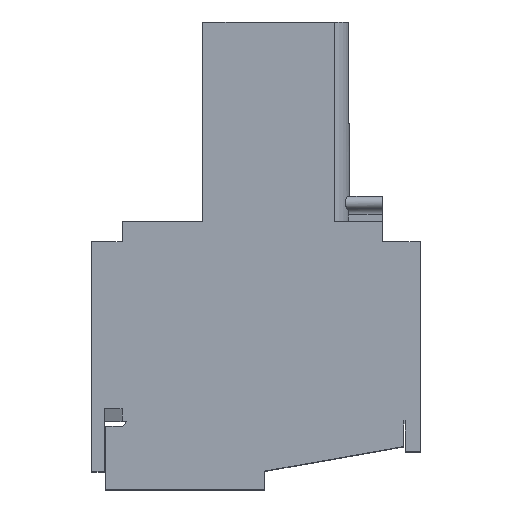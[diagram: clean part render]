
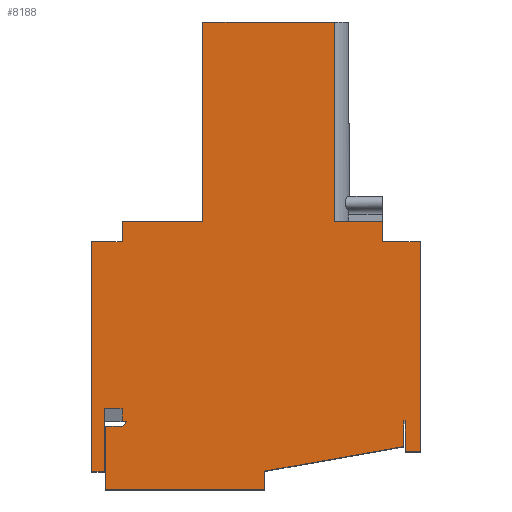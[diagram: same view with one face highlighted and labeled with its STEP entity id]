
A CAD part, top view. The second image highlights one B-rep face of the part: STEP entity #8188.
In plain terms, the highlighted planar face has unit normal (0, 0, 1).
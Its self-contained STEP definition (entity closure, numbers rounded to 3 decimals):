
#229=DIRECTION('',(0.643,0.766,0.));
#230=VECTOR('',#229,0.261);
#231=CARTESIAN_POINT('',(1.221,2.5,-13.651));
#232=LINE('',#231,#230);
#233=DIRECTION('',(1.,0.,0.));
#234=VECTOR('',#233,0.189);
#235=CARTESIAN_POINT('',(1.2,2.7,-13.651));
#236=LINE('',#235,#234);
#237=DIRECTION('',(0.,-1.,0.));
#238=VECTOR('',#237,0.5);
#239=CARTESIAN_POINT('',(1.2,3.2,-13.651));
#240=LINE('',#239,#238);
#241=DIRECTION('',(-1.,0.,0.));
#242=VECTOR('',#241,0.7);
#243=CARTESIAN_POINT('',(1.2,3.2,-13.651));
#244=LINE('',#243,#242);
#245=DIRECTION('',(0.,-1.,0.));
#246=VECTOR('',#245,2.5);
#247=CARTESIAN_POINT('',(0.5,3.2,-13.651));
#248=LINE('',#247,#246);
#249=DIRECTION('',(-1.,0.,0.));
#250=VECTOR('',#249,0.5);
#251=CARTESIAN_POINT('',(0.5,0.7,-13.651));
#252=LINE('',#251,#250);
#253=DIRECTION('',(0.,1.,0.));
#254=VECTOR('',#253,9.1);
#255=CARTESIAN_POINT('',(0.,0.7,-13.651));
#256=LINE('',#255,#254);
#257=DIRECTION('',(1.,0.,0.));
#258=VECTOR('',#257,1.2);
#259=CARTESIAN_POINT('',(0.,9.8,-13.651));
#260=LINE('',#259,#258);
#261=DIRECTION('',(0.,1.,0.));
#262=VECTOR('',#261,0.8);
#263=CARTESIAN_POINT('',(1.2,9.8,-13.651));
#264=LINE('',#263,#262);
#265=DIRECTION('',(1.,0.,0.));
#266=VECTOR('',#265,3.2);
#267=CARTESIAN_POINT('',(1.2,10.6,-13.651));
#268=LINE('',#267,#266);
#269=DIRECTION('',(0.,1.,0.));
#270=VECTOR('',#269,7.9);
#271=CARTESIAN_POINT('',(4.4,10.6,-13.651));
#272=LINE('',#271,#270);
#273=DIRECTION('',(1.,0.,0.));
#274=VECTOR('',#273,5.2);
#275=CARTESIAN_POINT('',(4.4,18.5,-13.651));
#276=LINE('',#275,#274);
#277=DIRECTION('',(1.,0.,0.));
#278=VECTOR('',#277,1.9);
#279=CARTESIAN_POINT('',(9.6,10.6,-13.651));
#280=LINE('',#279,#278);
#281=DIRECTION('',(0.,-1.,0.));
#282=VECTOR('',#281,0.8);
#283=CARTESIAN_POINT('',(11.5,10.6,-13.651));
#284=LINE('',#283,#282);
#285=DIRECTION('',(1.,0.,0.));
#286=VECTOR('',#285,1.5);
#287=CARTESIAN_POINT('',(11.5,9.8,-13.651));
#288=LINE('',#287,#286);
#289=DIRECTION('',(0.,-1.,0.));
#290=VECTOR('',#289,8.3);
#291=CARTESIAN_POINT('',(13.,9.8,-13.651));
#292=LINE('',#291,#290);
#293=DIRECTION('',(-1.,0.,0.));
#294=VECTOR('',#293,0.6);
#295=CARTESIAN_POINT('',(13.,1.5,-13.651));
#296=LINE('',#295,#294);
#297=DIRECTION('',(0.,1.,0.));
#298=VECTOR('',#297,1.224);
#299=CARTESIAN_POINT('',(12.4,1.5,-13.651));
#300=LINE('',#299,#298);
#301=DIRECTION('',(0.985,0.174,0.));
#302=VECTOR('',#301,0.051);
#303=CARTESIAN_POINT('',(12.35,2.715,-13.651));
#304=LINE('',#303,#302);
#305=DIRECTION('',(0.,-1.,0.));
#306=VECTOR('',#305,1.015);
#307=CARTESIAN_POINT('',(12.35,2.715,-13.651));
#308=LINE('',#307,#306);
#309=DIRECTION('',(-0.985,-0.174,0.));
#310=VECTOR('',#309,5.585);
#311=CARTESIAN_POINT('',(12.35,1.7,-13.651));
#312=LINE('',#311,#310);
#313=DIRECTION('',(0.,-1.,0.));
#314=VECTOR('',#313,0.73);
#315=CARTESIAN_POINT('',(6.85,0.73,-13.651));
#316=LINE('',#315,#314);
#317=DIRECTION('',(-1.,0.,0.));
#318=VECTOR('',#317,6.3);
#319=CARTESIAN_POINT('',(6.85,0.,-13.651));
#320=LINE('',#319,#318);
#321=DIRECTION('',(0.,1.,0.));
#322=VECTOR('',#321,2.5);
#323=CARTESIAN_POINT('',(0.55,0.,-13.651));
#324=LINE('',#323,#322);
#5611=DIRECTION('',(0.,1.,0.));
#5612=VECTOR('',#5611,7.9);
#5613=CARTESIAN_POINT('',(9.6,10.6,-13.651));
#5614=LINE('',#5613,#5612);
#6023=DIRECTION('',(-1.,0.,0.));
#6024=VECTOR('',#6023,0.671);
#6025=CARTESIAN_POINT('',(1.221,2.5,-13.651));
#6026=LINE('',#6025,#6024);
#6289=CARTESIAN_POINT('',(1.221,2.5,-13.651));
#6291=VERTEX_POINT('',#6289);
#6338=CARTESIAN_POINT('',(12.35,1.7,-13.651));
#6339=VERTEX_POINT('',#6338);
#6376=CARTESIAN_POINT('',(6.85,0.73,
-13.651));
#6377=VERTEX_POINT('',#6376);
#6378=CARTESIAN_POINT('',(6.85,0.,-13.651));
#6379=VERTEX_POINT('',#6378);
#6380=CARTESIAN_POINT('',(0.55,0.,-13.651));
#6381=VERTEX_POINT('',#6380);
#6410=CARTESIAN_POINT('',(0.55,2.5,-13.651));
#6411=VERTEX_POINT('',#6410);
#6438=CARTESIAN_POINT('',(0.5,0.7,-13.651));
#6439=VERTEX_POINT('',#6438);
#6440=CARTESIAN_POINT('',(0.5,3.2,-13.651));
#6441=VERTEX_POINT('',#6440);
#6456=CARTESIAN_POINT('',(0.,0.7,-13.651));
#6457=VERTEX_POINT('',#6456);
#6458=CARTESIAN_POINT('',(0.,9.8,-13.651));
#6459=VERTEX_POINT('',#6458);
#6460=CARTESIAN_POINT('',(1.2,9.8,-13.651));
#6461=VERTEX_POINT('',#6460);
#6462=CARTESIAN_POINT('',(1.2,10.6,-13.651));
#6463=VERTEX_POINT('',#6462);
#6464=CARTESIAN_POINT('',(4.4,10.6,-13.651));
#6465=VERTEX_POINT('',#6464);
#6466=CARTESIAN_POINT('',(4.4,18.5,-13.651));
#6467=VERTEX_POINT('',#6466);
#6468=CARTESIAN_POINT('',(9.6,18.5,-13.651));
#6469=VERTEX_POINT('',#6468);
#6470=CARTESIAN_POINT('',(9.6,10.6,-13.651));
#6471=VERTEX_POINT('',#6470);
#6472=CARTESIAN_POINT('',(11.5,10.6,-13.651));
#6473=VERTEX_POINT('',#6472);
#6474=CARTESIAN_POINT('',(11.5,9.8,-13.651));
#6475=VERTEX_POINT('',#6474);
#6476=CARTESIAN_POINT('',(13.,9.8,-13.651));
#6477=VERTEX_POINT('',#6476);
#6478=CARTESIAN_POINT('',(13.,1.5,-13.651));
#6479=VERTEX_POINT('',#6478);
#6480=CARTESIAN_POINT('',(12.4,1.5,-13.651));
#6481=VERTEX_POINT('',#6480);
#7421=CARTESIAN_POINT('',(12.35,2.715,-13.651));
#7423=VERTEX_POINT('',#7421);
#7479=CARTESIAN_POINT('',(12.4,2.724,-13.651));
#7480=VERTEX_POINT('',#7479);
#7690=CARTESIAN_POINT('',(1.2,3.2,-13.651));
#7692=VERTEX_POINT('',#7690);
#7696=CARTESIAN_POINT('',(1.389,2.7,-13.651));
#7697=VERTEX_POINT('',#7696);
#7698=CARTESIAN_POINT('',(1.2,2.7,-13.651));
#7699=VERTEX_POINT('',#7698);
#8134=CARTESIAN_POINT('',(0.,0.7,-13.651));
#8135=DIRECTION('',(0.,0.,1.));
#8136=DIRECTION('',(1.,0.,0.));
#8137=AXIS2_PLACEMENT_3D('',#8134,#8135,#8136);
#8138=PLANE('',#8137);
#8139=ORIENTED_EDGE('',*,*,#8112,.T.);
#8140=ORIENTED_EDGE('',*,*,#7890,.F.);
#8141=ORIENTED_EDGE('',*,*,#7796,.F.);
#8143=ORIENTED_EDGE('',*,*,#8142,.T.);
#8145=ORIENTED_EDGE('',*,*,#8144,.T.);
#8147=ORIENTED_EDGE('',*,*,#8146,.T.);
#8149=ORIENTED_EDGE('',*,*,#8148,.T.);
#8151=ORIENTED_EDGE('',*,*,#8150,.T.);
#8153=ORIENTED_EDGE('',*,*,#8152,.T.);
#8155=ORIENTED_EDGE('',*,*,#8154,.T.);
#8157=ORIENTED_EDGE('',*,*,#8156,.T.);
#8159=ORIENTED_EDGE('',*,*,#8158,.T.);
#8161=ORIENTED_EDGE('',*,*,#8160,.F.);
#8163=ORIENTED_EDGE('',*,*,#8162,.T.);
#8165=ORIENTED_EDGE('',*,*,#8164,.T.);
#8167=ORIENTED_EDGE('',*,*,#8166,.T.);
#8169=ORIENTED_EDGE('',*,*,#8168,.T.);
#8171=ORIENTED_EDGE('',*,*,#8170,.T.);
#8173=ORIENTED_EDGE('',*,*,#8172,.T.);
#8175=ORIENTED_EDGE('',*,*,#8174,.F.);
#8177=ORIENTED_EDGE('',*,*,#8176,.T.);
#8179=ORIENTED_EDGE('',*,*,#8178,.T.);
#8181=ORIENTED_EDGE('',*,*,#8180,.T.);
#8182=ORIENTED_EDGE('',*,*,#8041,.T.);
#8183=ORIENTED_EDGE('',*,*,#8089,.T.);
#8185=ORIENTED_EDGE('',*,*,#8184,.F.);
#8186=EDGE_LOOP('',(#8139,#8140,#8141,#8143,#8145,#8147,#8149,#8151,#8153,#8155,
#8157,#8159,#8161,#8163,#8165,#8167,#8169,#8171,#8173,#8175,#8177,#8179,#8181,
#8182,#8183,#8185));
#8187=FACE_OUTER_BOUND('',#8186,.F.);
#8188=ADVANCED_FACE('',(#8187),#8138,.T.);
#7796=EDGE_CURVE('',#7692,#7699,#240,.T.);
#7890=EDGE_CURVE('',#7699,#7697,#236,.T.);
#8041=EDGE_CURVE('',#6379,#6381,#320,.T.);
#8089=EDGE_CURVE('',#6381,#6411,#324,.T.);
#8112=EDGE_CURVE('',#6291,#7697,#232,.T.);
#8142=EDGE_CURVE('',#7692,#6441,#244,.T.);
#8144=EDGE_CURVE('',#6441,#6439,#248,.T.);
#8146=EDGE_CURVE('',#6439,#6457,#252,.T.);
#8148=EDGE_CURVE('',#6457,#6459,#256,.T.);
#8150=EDGE_CURVE('',#6459,#6461,#260,.T.);
#8152=EDGE_CURVE('',#6461,#6463,#264,.T.);
#8154=EDGE_CURVE('',#6463,#6465,#268,.T.);
#8156=EDGE_CURVE('',#6465,#6467,#272,.T.);
#8158=EDGE_CURVE('',#6467,#6469,#276,.T.);
#8160=EDGE_CURVE('',#6471,#6469,#5614,.T.);
#8162=EDGE_CURVE('',#6471,#6473,#280,.T.);
#8164=EDGE_CURVE('',#6473,#6475,#284,.T.);
#8166=EDGE_CURVE('',#6475,#6477,#288,.T.);
#8168=EDGE_CURVE('',#6477,#6479,#292,.T.);
#8170=EDGE_CURVE('',#6479,#6481,#296,.T.);
#8172=EDGE_CURVE('',#6481,#7480,#300,.T.);
#8174=EDGE_CURVE('',#7423,#7480,#304,.T.);
#8176=EDGE_CURVE('',#7423,#6339,#308,.T.);
#8178=EDGE_CURVE('',#6339,#6377,#312,.T.);
#8180=EDGE_CURVE('',#6377,#6379,#316,.T.);
#8184=EDGE_CURVE('',#6291,#6411,#6026,.T.);
